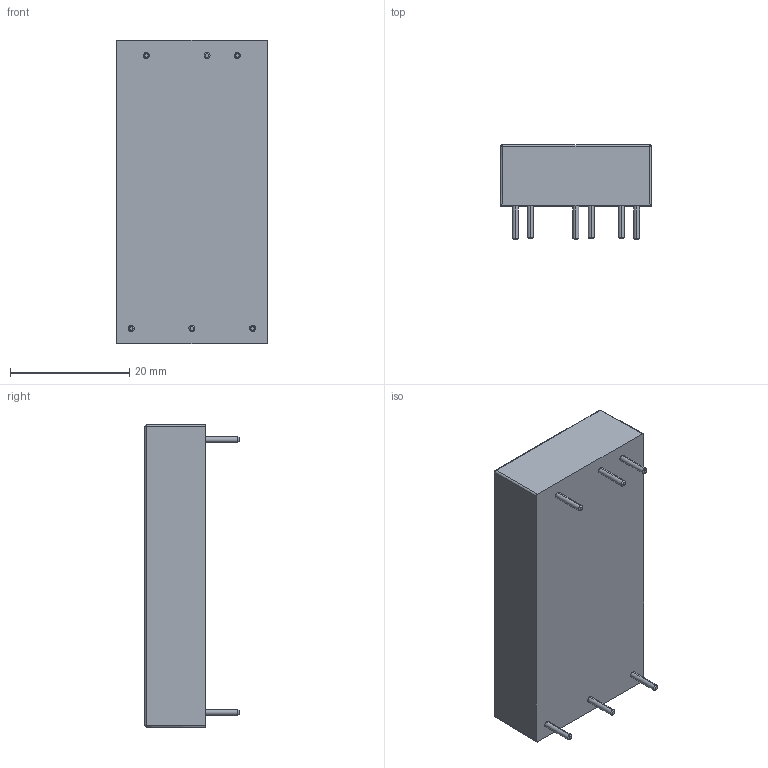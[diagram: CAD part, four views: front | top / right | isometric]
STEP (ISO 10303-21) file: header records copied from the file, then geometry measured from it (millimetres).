
FILE_DESCRIPTION (( 'STEP AP214' ), '1' );
FILE_NAME ('RPA40-FR_3D_20220808.STEP', '2022-08-09T05:57:33', ( '' ), ( '' ), 'SwSTEP 2.0', 'SolidWorks 2020', '' );
FILE_SCHEMA (( 'AUTOMOTIVE_DESIGN' ));
Length unit declared in the file: inch
Products named in the file (2): RPA40-FR_20220808; RPA40-FR_3D_20220808
Assembly tree (1 placements, depth 2):
  RPA40-FR_3D_20220808
    RPA40-FR_20220808
Bounding box: 25.4 x 15.8 x 50.8 mm (x, y, z)
Volume: 13114.6 mm3; surface area: 4196.5 mm2
Topology: 1 solids, 1 shells, 48 faces, 96 edges, 56 vertices
Faces by surface type: cylinder 20, cone 12, plane 12, sphere 4
Entity records: 1700 total; most frequent: DIRECTION 244, CARTESIAN_POINT 216, ORIENTED_EDGE 192, AXIS2_PLACEMENT_3D 100, EDGE_CURVE 96, VERTEX_POINT 56, EDGE_LOOP 54, CIRCLE 48
